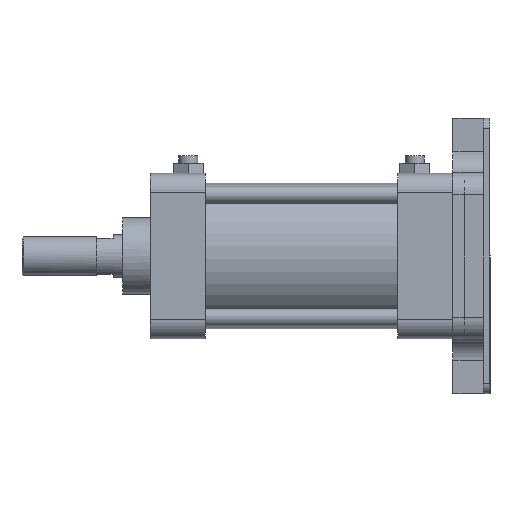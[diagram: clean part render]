
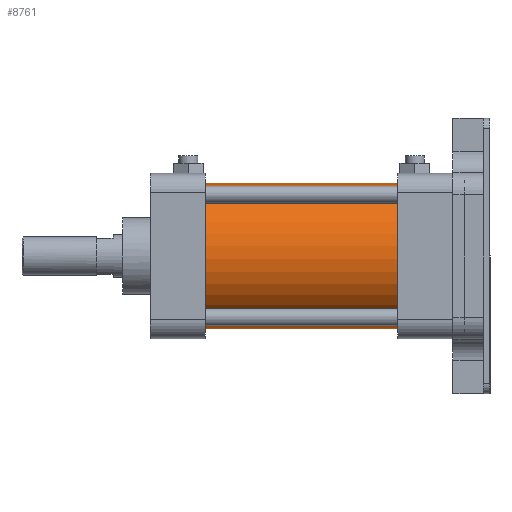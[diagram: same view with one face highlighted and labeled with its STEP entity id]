
A CAD part, front view. The second image highlights one B-rep face of the part: STEP entity #8761.
In plain terms, the highlighted cylindrical face has radius 34.5 mm (diameter 69 mm), a partial arc.
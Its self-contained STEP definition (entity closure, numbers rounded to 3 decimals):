
#189 = CYLINDRICAL_SURFACE ( 'NONE', #6273, 34.5 ) ;
#585 = ORIENTED_EDGE ( 'NONE', *, *, #4924, .T. ) ;
#635 = EDGE_CURVE ( 'NONE', #1046, #6578, #6695, .T. ) ;
#678 = ORIENTED_EDGE ( 'NONE', *, *, #9035, .T. ) ;
#1008 = CARTESIAN_POINT ( 'NONE',  ( -45.5, 0., 34.5 ) ) ;
#1046 = VERTEX_POINT ( 'NONE', #5256 ) ;
#1102 = DIRECTION ( 'NONE',  ( -1., 0., 0. ) ) ;
#1421 = LINE ( 'NONE', #2893, #9996 ) ;
#1620 = AXIS2_PLACEMENT_3D ( 'NONE', #4377, #5720, #2049 ) ;
#1634 = CIRCLE ( 'NONE', #6388, 34.5 ) ;
#1720 = CARTESIAN_POINT ( 'NONE',  ( -29.1, 0., -34.5 ) ) ;
#2049 = DIRECTION ( 'NONE',  ( 0., 0., 1. ) ) ;
#2263 = DIRECTION ( 'NONE',  ( -1., 0., 0. ) ) ;
#2642 = DIRECTION ( 'NONE',  ( -1., 0., 0. ) ) ;
#2752 = DIRECTION ( 'NONE',  ( 0., 0., 1. ) ) ;
#2893 = CARTESIAN_POINT ( 'NONE',  ( -29.1, 0., 34.5 ) ) ;
#3342 = DIRECTION ( 'NONE',  ( 0., 0., 1. ) ) ;
#3466 = CIRCLE ( 'NONE', #1620, 34.5 ) ;
#4377 = CARTESIAN_POINT ( 'NONE',  ( -45.5, 0., 0. ) ) ;
#4653 = VERTEX_POINT ( 'NONE', #6731 ) ;
#4924 = EDGE_CURVE ( 'NONE', #4653, #5465, #1421, .T. ) ;
#5045 = DIRECTION ( 'NONE',  ( -1., 0., 0. ) ) ;
#5256 = CARTESIAN_POINT ( 'NONE',  ( 45.5, 0., -34.5 ) ) ;
#5455 = ORIENTED_EDGE ( 'NONE', *, *, #6042, .F. ) ;
#5465 = VERTEX_POINT ( 'NONE', #1008 ) ;
#5720 = DIRECTION ( 'NONE',  ( -1., 0., 0. ) ) ;
#6042 = EDGE_CURVE ( 'NONE', #6578, #5465, #3466, .T. ) ;
#6150 = CARTESIAN_POINT ( 'NONE',  ( -29.1, 0., 0. ) ) ;
#6273 = AXIS2_PLACEMENT_3D ( 'NONE', #6150, #2642, #3342 ) ;
#6335 = CARTESIAN_POINT ( 'NONE',  ( -45.5, 0., -34.5 ) ) ;
#6388 = AXIS2_PLACEMENT_3D ( 'NONE', #7408, #2263, #2752 ) ;
#6476 = ORIENTED_EDGE ( 'NONE', *, *, #635, .F. ) ;
#6578 = VERTEX_POINT ( 'NONE', #6335 ) ;
#6695 = LINE ( 'NONE', #1720, #8296 ) ;
#6731 = CARTESIAN_POINT ( 'NONE',  ( 45.5, 0., 34.5 ) ) ;
#7408 = CARTESIAN_POINT ( 'NONE',  ( 45.5, 0., 0. ) ) ;
#8296 = VECTOR ( 'NONE', #5045, 1000. ) ;
#8309 = FACE_OUTER_BOUND ( 'NONE', #9577, .T. ) ;
#8761 = ADVANCED_FACE ( 'NONE', ( #8309 ), #189, .T. ) ;
#9035 = EDGE_CURVE ( 'NONE', #1046, #4653, #1634, .T. ) ;
#9577 = EDGE_LOOP ( 'NONE', ( #6476, #678, #585, #5455 ) ) ;
#9996 = VECTOR ( 'NONE', #1102, 1000. ) ;
